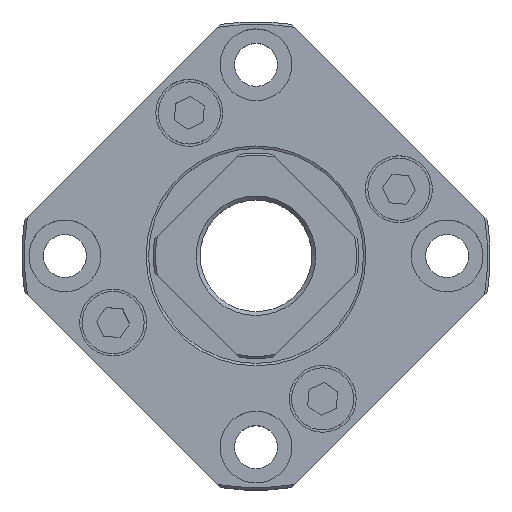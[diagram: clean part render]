
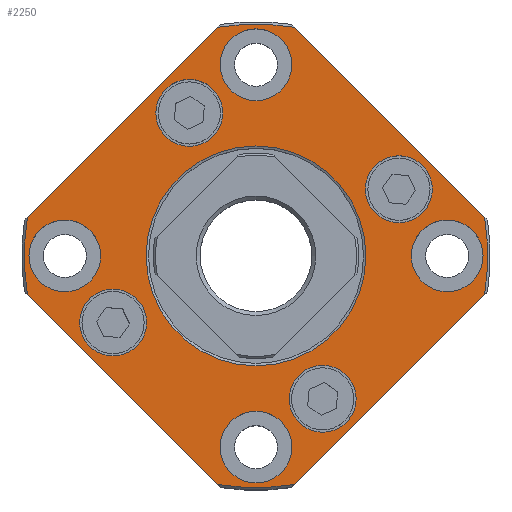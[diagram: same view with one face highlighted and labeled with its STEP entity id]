
A CAD part, top view. The second image highlights one B-rep face of the part: STEP entity #2250.
In plain terms, the highlighted planar face has unit normal (0, 0, 1) as drawn and (-1, 0, 0) by its records, which use the part's own axes.
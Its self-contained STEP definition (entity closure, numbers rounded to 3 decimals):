
#170=LINE('',#3469,#324);
#174=LINE('',#3488,#328);
#178=LINE('',#3507,#332);
#182=LINE('',#3526,#336);
#324=VECTOR('',#2750,1000.);
#328=VECTOR('',#2756,1000.);
#332=VECTOR('',#2762,1000.);
#336=VECTOR('',#2768,1000.);
#506=ORIENTED_EDGE('',*,*,#1110,.T.);
#507=ORIENTED_EDGE('',*,*,#1111,.T.);
#508=ORIENTED_EDGE('',*,*,#1112,.T.);
#509=ORIENTED_EDGE('',*,*,#1113,.T.);
#510=ORIENTED_EDGE('',*,*,#1114,.T.);
#511=ORIENTED_EDGE('',*,*,#1115,.T.);
#512=ORIENTED_EDGE('',*,*,#1116,.T.);
#513=ORIENTED_EDGE('',*,*,#1117,.T.);
#514=ORIENTED_EDGE('',*,*,#1118,.T.);
#515=ORIENTED_EDGE('',*,*,#1107,.F.);
#516=ORIENTED_EDGE('',*,*,#1119,.F.);
#517=ORIENTED_EDGE('',*,*,#1101,.F.);
#518=ORIENTED_EDGE('',*,*,#1120,.F.);
#519=ORIENTED_EDGE('',*,*,#1095,.F.);
#520=ORIENTED_EDGE('',*,*,#1121,.F.);
#521=ORIENTED_EDGE('',*,*,#1089,.F.);
#522=ORIENTED_EDGE('',*,*,#1122,.F.);
#1089=EDGE_CURVE('',#1391,#1392,#170,.T.);
#1095=EDGE_CURVE('',#1397,#1398,#174,.T.);
#1101=EDGE_CURVE('',#1403,#1404,#178,.T.);
#1107=EDGE_CURVE('',#1409,#1410,#182,.T.);
#1110=EDGE_CURVE('',#1412,#1412,#1588,.T.);
#1111=EDGE_CURVE('',#1413,#1413,#1589,.T.);
#1112=EDGE_CURVE('',#1414,#1414,#1590,.T.);
#1113=EDGE_CURVE('',#1415,#1415,#1591,.T.);
#1114=EDGE_CURVE('',#1416,#1416,#1592,.T.);
#1115=EDGE_CURVE('',#1417,#1417,#1593,.T.);
#1116=EDGE_CURVE('',#1418,#1418,#1594,.T.);
#1117=EDGE_CURVE('',#1419,#1419,#1595,.T.);
#1118=EDGE_CURVE('',#1420,#1420,#1596,.T.);
#1119=EDGE_CURVE('',#1404,#1409,#1597,.T.);
#1120=EDGE_CURVE('',#1398,#1403,#1598,.T.);
#1121=EDGE_CURVE('',#1392,#1397,#1599,.T.);
#1122=EDGE_CURVE('',#1410,#1391,#1600,.T.);
#1391=VERTEX_POINT('',#3468);
#1392=VERTEX_POINT('',#3470);
#1397=VERTEX_POINT('',#3487);
#1398=VERTEX_POINT('',#3489);
#1403=VERTEX_POINT('',#3506);
#1404=VERTEX_POINT('',#3508);
#1409=VERTEX_POINT('',#3525);
#1410=VERTEX_POINT('',#3527);
#1412=VERTEX_POINT('',#3536);
#1413=VERTEX_POINT('',#3538);
#1414=VERTEX_POINT('',#3540);
#1415=VERTEX_POINT('',#3542);
#1416=VERTEX_POINT('',#3544);
#1417=VERTEX_POINT('',#3546);
#1418=VERTEX_POINT('',#3548);
#1419=VERTEX_POINT('',#3550);
#1420=VERTEX_POINT('',#3552);
#1588=CIRCLE('',#2445,7.);
#1589=CIRCLE('',#2446,7.);
#1590=CIRCLE('',#2447,7.);
#1591=CIRCLE('',#2448,7.);
#1592=CIRCLE('',#2449,7.5);
#1593=CIRCLE('',#2450,7.5);
#1594=CIRCLE('',#2451,7.5);
#1595=CIRCLE('',#2452,7.5);
#1596=CIRCLE('',#2453,23.);
#1597=CIRCLE('',#2454,48.5);
#1598=CIRCLE('',#2455,48.5);
#1599=CIRCLE('',#2456,48.5);
#1600=CIRCLE('',#2457,48.5);
#1710=EDGE_LOOP('',(#506));
#1711=EDGE_LOOP('',(#507));
#1712=EDGE_LOOP('',(#508));
#1713=EDGE_LOOP('',(#509));
#1714=EDGE_LOOP('',(#510));
#1715=EDGE_LOOP('',(#511));
#1716=EDGE_LOOP('',(#512));
#1717=EDGE_LOOP('',(#513));
#1718=EDGE_LOOP('',(#514));
#1719=EDGE_LOOP('',(#515,#516,#517,#518,#519,#520,#521,#522));
#1942=FACE_BOUND('',#1710,.T.);
#1943=FACE_BOUND('',#1711,.T.);
#1944=FACE_BOUND('',#1712,.T.);
#1945=FACE_BOUND('',#1713,.T.);
#1946=FACE_BOUND('',#1714,.T.);
#1947=FACE_BOUND('',#1715,.T.);
#1948=FACE_BOUND('',#1716,.T.);
#1949=FACE_BOUND('',#1717,.T.);
#1950=FACE_BOUND('',#1718,.T.);
#1951=FACE_BOUND('',#1719,.T.);
#2169=PLANE('',#2444);
#2250=ADVANCED_FACE('',(#1942,#1943,#1944,#1945,#1946,#1947,#1948,#1949,
#1950,#1951),#2169,.F.);
#2444=AXIS2_PLACEMENT_3D('',#3534,#2770,#2771);
#2445=AXIS2_PLACEMENT_3D('',#3535,#2772,#2773);
#2446=AXIS2_PLACEMENT_3D('',#3537,#2774,#2775);
#2447=AXIS2_PLACEMENT_3D('',#3539,#2776,#2777);
#2448=AXIS2_PLACEMENT_3D('',#3541,#2778,#2779);
#2449=AXIS2_PLACEMENT_3D('',#3543,#2780,#2781);
#2450=AXIS2_PLACEMENT_3D('',#3545,#2782,#2783);
#2451=AXIS2_PLACEMENT_3D('',#3547,#2784,#2785);
#2452=AXIS2_PLACEMENT_3D('',#3549,#2786,#2787);
#2453=AXIS2_PLACEMENT_3D('',#3551,#2788,#2789);
#2454=AXIS2_PLACEMENT_3D('',#3553,#2790,#2791);
#2455=AXIS2_PLACEMENT_3D('',#3554,#2792,#2793);
#2456=AXIS2_PLACEMENT_3D('',#3555,#2794,#2795);
#2457=AXIS2_PLACEMENT_3D('',#3556,#2796,#2797);
#2750=DIRECTION('',(0.,-0.707,-0.707));
#2756=DIRECTION('',(0.,0.707,-0.707));
#2762=DIRECTION('',(0.,0.707,0.707));
#2768=DIRECTION('',(0.,-0.707,0.707));
#2770=DIRECTION('',(1.,0.,0.));
#2771=DIRECTION('',(0.,0.,-1.));
#2772=DIRECTION('',(1.,0.,0.));
#2773=DIRECTION('',(0.,0.,-1.));
#2774=DIRECTION('',(1.,0.,0.));
#2775=DIRECTION('',(0.,0.,-1.));
#2776=DIRECTION('',(1.,0.,0.));
#2777=DIRECTION('',(0.,0.,-1.));
#2778=DIRECTION('',(1.,0.,0.));
#2779=DIRECTION('',(0.,0.,-1.));
#2780=DIRECTION('',(1.,0.,0.));
#2781=DIRECTION('',(0.,0.,-1.));
#2782=DIRECTION('',(1.,0.,0.));
#2783=DIRECTION('',(0.,0.,-1.));
#2784=DIRECTION('',(1.,0.,0.));
#2785=DIRECTION('',(0.,0.,-1.));
#2786=DIRECTION('',(1.,0.,0.));
#2787=DIRECTION('',(0.,0.,-1.));
#2788=DIRECTION('',(1.,0.,0.));
#2789=DIRECTION('',(0.,0.,-1.));
#2790=DIRECTION('',(1.,0.,0.));
#2791=DIRECTION('',(0.,0.,-1.));
#2792=DIRECTION('',(1.,0.,0.));
#2793=DIRECTION('',(0.,0.,-1.));
#2794=DIRECTION('',(1.,0.,0.));
#2795=DIRECTION('',(0.,0.,-1.));
#2796=DIRECTION('',(1.,0.,0.));
#2797=DIRECTION('',(0.,0.,-1.));
#3468=CARTESIAN_POINT('',(-27.,-8.031,47.83));
#3469=CARTESIAN_POINT('',(-27.,0.,55.861));
#3470=CARTESIAN_POINT('',(-27.,-47.83,8.031));
#3487=CARTESIAN_POINT('',(-27.,-47.83,-8.031));
#3488=CARTESIAN_POINT('',(-27.,-55.861,0.));
#3489=CARTESIAN_POINT('',(-27.,-8.031,-47.83));
#3506=CARTESIAN_POINT('',(-27.,8.031,-47.83));
#3507=CARTESIAN_POINT('',(-27.,0.,-55.861));
#3508=CARTESIAN_POINT('',(-27.,47.83,-8.031));
#3525=CARTESIAN_POINT('',(-27.,47.83,8.031));
#3526=CARTESIAN_POINT('',(-27.,55.861,0.));
#3527=CARTESIAN_POINT('',(-27.,8.031,47.83));
#3534=CARTESIAN_POINT('',(-27.,22.5,0.));
#3535=CARTESIAN_POINT('',(-27.,-13.946,-29.908));
#3536=CARTESIAN_POINT('',(-27.,-13.946,-36.908));
#3537=CARTESIAN_POINT('',(-27.,13.946,29.908));
#3538=CARTESIAN_POINT('',(-27.,13.946,22.908));
#3539=CARTESIAN_POINT('',(-27.,-29.908,13.946));
#3540=CARTESIAN_POINT('',(-27.,-29.908,6.946));
#3541=CARTESIAN_POINT('',(-27.,29.908,-13.946));
#3542=CARTESIAN_POINT('',(-27.,29.908,-20.946));
#3543=CARTESIAN_POINT('',(-27.,0.,40.));
#3544=CARTESIAN_POINT('',(-27.,0.,32.5));
#3545=CARTESIAN_POINT('',(-27.,-40.,0.));
#3546=CARTESIAN_POINT('',(-27.,-40.,-7.5));
#3547=CARTESIAN_POINT('',(-27.,0.,-40.));
#3548=CARTESIAN_POINT('',(-27.,0.,-47.5));
#3549=CARTESIAN_POINT('',(-27.,40.,0.));
#3550=CARTESIAN_POINT('',(-27.,40.,-7.5));
#3551=CARTESIAN_POINT('',(-27.,0.,0.));
#3552=CARTESIAN_POINT('',(-27.,0.,-23.));
#3553=CARTESIAN_POINT('',(-27.,0.,0.));
#3554=CARTESIAN_POINT('',(-27.,0.,0.));
#3555=CARTESIAN_POINT('',(-27.,0.,0.));
#3556=CARTESIAN_POINT('',(-27.,0.,0.));
